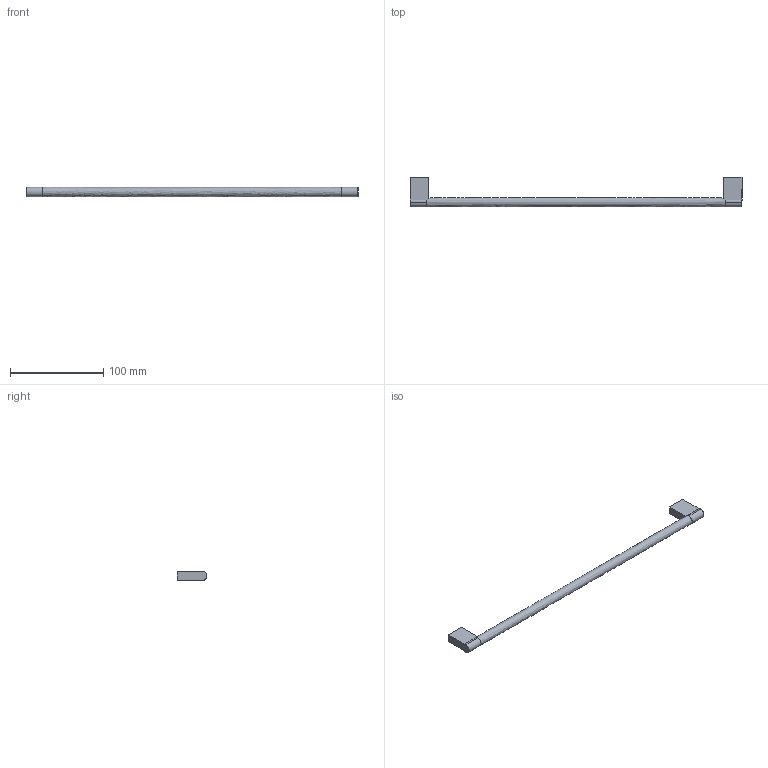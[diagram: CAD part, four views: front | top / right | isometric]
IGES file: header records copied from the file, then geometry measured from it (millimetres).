
Start section: Data from Parasolid IGES Translator 15.0.47, Copyright(c) 2006 Siemens P LM Software. All Rights Reserved.
Global section: file name:  9070013.igs; native system:  By UGS Corp.; preprocessor: XPlus GENERIC/IGES 3.0; author: Noname; organization: Noname; date: 20140122.153906; units: millimetre
Bounding box: 356 x 32 x 10 mm (x, y, z)
Surface area: 14661.8 mm2 (no closed solid volume)
Topology: 0 solids, 0 shells, 25 faces, 110 edges, 108 vertices
Faces by surface type: extrusion 16, revolution 9
